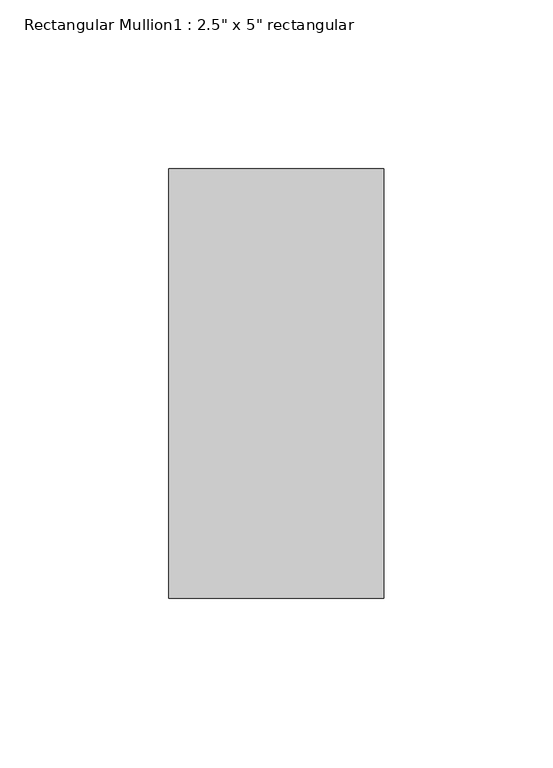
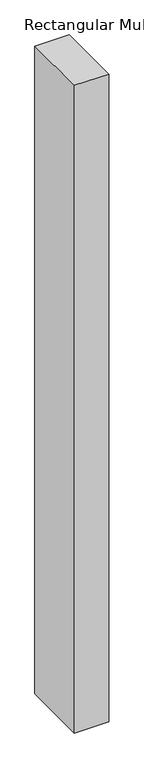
"""IFC4 building model written with IfcOpenShell, lengths in millimetres: member geometry."""

from ifc_helpers import new_model, si_unit, frame, origin, place, context, project, spatial, polyline, outline, extrude, source, transform, mapped, element, save


def member_60e3aab2(model_context):
    return source(origin(), model_context, "Body", "SweptSolid", [
        extrude(outline(polyline([(0.0, 63.5), (0.0, -63.5), (-63.5, -63.5), (-63.5, 63.5), (0.0, 63.5)])), frame((0.0, 0.0, -1270.9989637), z_axis=(0.0, 0.0, 1.0), x_axis=(1.0, 0.0, 0.0)), (0.0, 0.0, 1.0), 1270.9989637),
    ])


if __name__ == "__main__":
    model = new_model("IFC4")
    model_context = context("Model", 3, world=origin())
    ifc_project = project(units=[si_unit("LENGTHUNIT", "METRE", prefix="MILLI")], contexts=[model_context])
    site = spatial("IfcSite", under=ifc_project)
    building = spatial("IfcBuilding", under=site)
    placement = place(None, origin())
    member_shape = member_60e3aab2(model_context)
    element("IfcMember", 1, ObjectType="Rectangular Mullion1 : 2.5\" x 5\" rectangular", at=placement, inside=building, context=model_context, shape_type="MappedRepresentation", body=[
        mapped(member_shape, transform((0.0, 0.0, 0.0), x_axis=(1.0, 0.0, 0.0), y_axis=(0.0, 1.0, 0.0), z_axis=(0.0, 0.0, 1.0))),
    ])
    save(model, "model.ifc")
